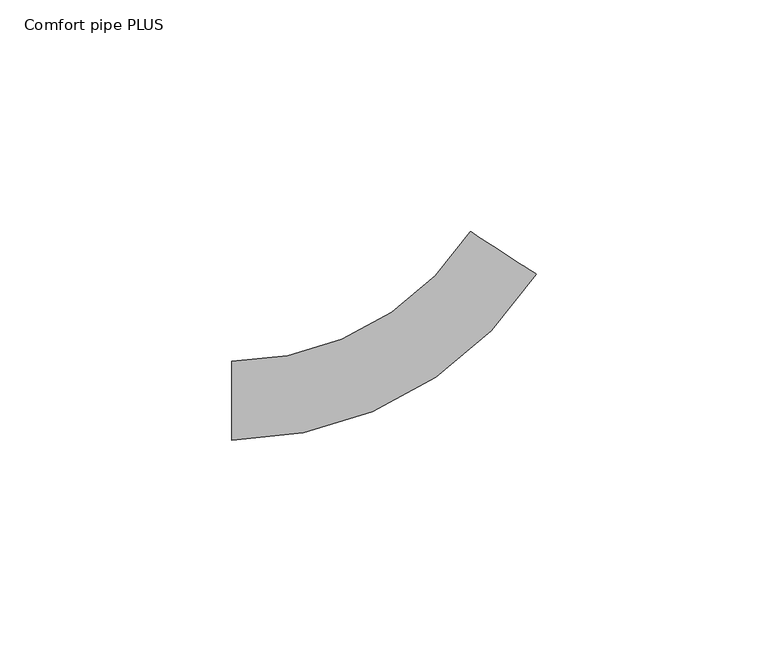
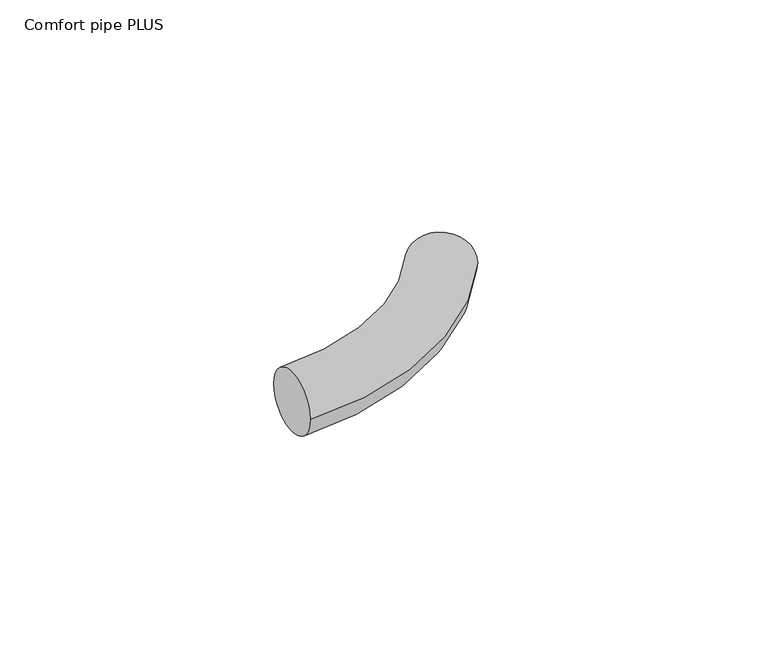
"""IFC4 building model written with IfcOpenShell, lengths in millimetres: pipe fitting geometry, 400_5-_Uponor_curved_Elbow : Comfort pipe PLUS."""

import ifcopenshell
import ifcopenshell.guid

model = None  # the IFC model being written
_history = None  # IfcOwnerHistory: only IFC2X3 demands one
_inside = {}  # id of a spatial element -> (the spatial element, [elements in it])
_under = {}  # id of a project, library or spatial element -> (it, [spatial elements below it])
_declared = {}  # id of a project -> (the project, [libraries it declares])
_typed = {}  # id of a type object -> (the type object, [elements of that type])
_made_of = {}  # id of a material, layer set ... -> (it, [elements and type objects made of it])


def new_model(schema):
    """Start an empty IFC model of exactly this schema.

    Asked for "IFC4X3", IfcOpenShell would pick the latest addendum, in which some entities
    have other attributes; the version numbers below select the first issue.
    IFC2X3 requires an IfcOwnerHistory on every rooted entity: one is made here for all.
    """
    global model, _history
    if schema == "IFC4X3":
        model = ifcopenshell.file(schema_version=(4, 3, 0, 0))
    else:
        model = ifcopenshell.file(schema=schema)
    _inside.clear()
    _under.clear()
    _declared.clear()
    _typed.clear()
    _made_of.clear()
    _history = None
    if model.schema == "IFC2X3":
        org = make("IfcOrganization", Name="unknown")
        user = make(
            "IfcPersonAndOrganization",
            ThePerson=make("IfcPerson", FamilyName="unknown"),
            TheOrganization=org,
        )
        app = make(
            "IfcApplication",
            ApplicationDeveloper=org,
            Version="unknown",
            ApplicationFullName="unknown",
            ApplicationIdentifier="unknown",
        )
        _history = make(
            "IfcOwnerHistory",
            OwningUser=user,
            OwningApplication=app,
            ChangeAction="ADDED",
            CreationDate=0,
        )
    return model


def make(cls, **values):
    """One entity of the class cls with the attributes given. An attribute that is None is left unset."""
    return model.create_entity(
        cls, **{name: value for name, value in values.items() if value is not None}
    )


def rooted(cls, **values):
    """An entity with a GlobalId (a new one), such as an element, a storey or a relation."""
    return make(cls, GlobalId=ifcopenshell.guid.new(), OwnerHistory=_history, **values)


def si_unit(unit_type, name, prefix=None):
    """IfcSIUnit, for example si_unit("LENGTHUNIT", "METRE", prefix="MILLI")."""
    return make("IfcSIUnit", UnitType=unit_type, Prefix=prefix, Name=name)


def assignment(units):
    """IfcUnitAssignment: the units of a project."""
    return None if units is None else make("IfcUnitAssignment", Units=units)


def point(xyz):
    """IfcCartesianPoint."""
    return None if xyz is None else make("IfcCartesianPoint", Coordinates=xyz)


def direction(xyz):
    """IfcDirection."""
    return None if xyz is None else make("IfcDirection", DirectionRatios=xyz)


def frame(location, z_axis=None, x_axis=None):
    """IfcAxis2Placement3D, a coordinate frame: its origin and axes. An axis left out is left unset."""
    return make(
        "IfcAxis2Placement3D",
        Location=point(location),
        Axis=direction(z_axis),
        RefDirection=direction(x_axis),
    )


def origin():
    """The frame at (0, 0, 0) with its axes left unset."""
    return frame((0.0, 0.0, 0.0))


def place(relative_to, where):
    """IfcLocalPlacement: puts the frame where relative to a parent placement (None: the world)."""
    return make(
        "IfcLocalPlacement", PlacementRelTo=relative_to, RelativePlacement=where
    )


def context(
    kind, dimensions, precision=None, world=None, true_north=None, identifier=None
):
    """IfcGeometricRepresentationContext, for example the 3D "Model" context."""
    return make(
        "IfcGeometricRepresentationContext",
        ContextIdentifier=identifier,
        ContextType=kind,
        CoordinateSpaceDimension=dimensions,
        Precision=precision,
        WorldCoordinateSystem=world,
        TrueNorth=true_north,
    )


def project(units=None, contexts=None):
    """IfcProject with its units and contexts."""
    return rooted(
        "IfcProject",
        Name="project",
        RepresentationContexts=contexts,
        UnitsInContext=assignment(units),
    )


def spatial(cls, under=None, at=None, **own):
    """A site, building, storey or space (cls), placed at a placement, below another one or the project."""
    s = rooted(cls, ObjectPlacement=at, **own)
    if under is not None:
        _under.setdefault(under.id(), (under, []))[1].append(s)
    return s


def circle_curve(where, radius):
    """IfcCircle in the frame where."""
    return make("IfcCircle", Position=where, Radius=radius)


def ellipse_curve(where, semi_axis1, semi_axis2):
    """IfcEllipse in the frame where."""
    return make(
        "IfcEllipse", Position=where, SemiAxis1=semi_axis1, SemiAxis2=semi_axis2
    )


def trimmed(basis, trim1, trim2, sense, master):
    """IfcTrimmedCurve: the piece of a basis curve between two trims."""
    return make(
        "IfcTrimmedCurve",
        BasisCurve=basis,
        Trim1=trim1,
        Trim2=trim2,
        SenseAgreement=sense,
        MasterRepresentation=master,
    )


def shape(context_of_items, identifier, shape_type, items):
    """IfcShapeRepresentation: the items that make up one representation, for example the "Body"."""
    return make(
        "IfcShapeRepresentation",
        ContextOfItems=context_of_items,
        RepresentationIdentifier=identifier,
        RepresentationType=shape_type,
        Items=items,
    )


def source(mapping_origin, context_of_items, identifier, shape_type, items):
    """IfcRepresentationMap: a shape defined once, which mapped items show again and again."""
    return make(
        "IfcRepresentationMap",
        MappingOrigin=mapping_origin,
        MappedRepresentation=shape(context_of_items, identifier, shape_type, items),
    )


def transform(
    local_origin,
    x_axis=None,
    y_axis=None,
    z_axis=None,
    scale=None,
    scale2=None,
    scale3=None,
    uniform=True,
):
    """IfcCartesianTransformationOperator3D, or its non-uniform kind. x_axis, y_axis, z_axis: its Axis1, 2, 3."""
    if uniform:
        return make(
            "IfcCartesianTransformationOperator3D",
            Axis1=direction(x_axis),
            Axis2=direction(y_axis),
            LocalOrigin=point(local_origin),
            Scale=scale,
            Axis3=direction(z_axis),
        )
    return make(
        "IfcCartesianTransformationOperator3DnonUniform",
        Axis1=direction(x_axis),
        Axis2=direction(y_axis),
        LocalOrigin=point(local_origin),
        Scale=scale,
        Axis3=direction(z_axis),
        Scale2=scale2,
        Scale3=scale3,
    )


def mapped(mapping_source, mapping_target):
    """IfcMappedItem: shows the shape of a source again, moved by a transform."""
    return make(
        "IfcMappedItem", MappingSource=mapping_source, MappingTarget=mapping_target
    )


def made_of(thing, what):
    """Note that an element or type object is made of a material, layer set ...; save() writes the relation."""
    if what is not None:
        _made_of.setdefault(what.id(), (what, []))[1].append(thing)
    return thing


def element(
    cls,
    number,
    at=None,
    inside=None,
    cuts=None,
    type_object=None,
    material=None,
    context=None,
    identifier="Body",
    shape_type=None,
    held_by="IfcProductDefinitionShape",
    body=None,
    shapes=None,
    **own,
):
    """One element of the class cls, such as IfcWall. Its Tag is "e" and its number.

    at: its placement. inside: the storey or other place that contains it. cuts: it is an
    opening in that element (IfcRelVoidsElement). A single representation is given by context,
    identifier, shape_type and body (its items); several are given by shapes. held_by: the class
    of the entity that holds the representations. save() writes the other relations.
    """
    e = rooted(cls, Tag="e%d" % number, ObjectPlacement=at, **own)
    if body is not None:
        shapes = [shape(context, identifier, shape_type, body)]
    if shapes is not None:
        e.Representation = make(held_by, Representations=shapes)
    if inside is not None:
        _inside.setdefault(inside.id(), (inside, []))[1].append(e)
    if cuts is not None:
        rooted(
            "IfcRelVoidsElement", RelatingBuildingElement=cuts, RelatedOpeningElement=e
        )
    if type_object is not None:
        _typed.setdefault(type_object.id(), (type_object, []))[1].append(e)
    return made_of(e, material)


def aggregate(whole, parts):
    """IfcRelAggregates: a whole, such as a stair, and the parts it consists of."""
    return rooted("IfcRelAggregates", RelatingObject=whole, RelatedObjects=parts)


def save(model, path):
    """Write the relations noted so far, then the file.

    IfcRelAggregates (storeys below a building ...), IfcRelContainedInSpatialStructure (elements
    in a storey), IfcRelDefinesByType, IfcRelAssociatesMaterial and IfcRelDeclares: one each for
    every whole, place, type object, material and project.
    """
    for whole, parts in _under.values():
        aggregate(whole, parts)
    for where, things in _inside.values():
        rooted(
            "IfcRelContainedInSpatialStructure",
            RelatedElements=things,
            RelatingStructure=where,
        )
    for kind, things in _typed.values():
        rooted("IfcRelDefinesByType", RelatedObjects=things, RelatingType=kind)
    for what, things in _made_of.values():
        rooted("IfcRelAssociatesMaterial", RelatedObjects=things, RelatingMaterial=what)
    for by, libraries in _declared.values():
        rooted("IfcRelDeclares", RelatingContext=by, RelatedDefinitions=libraries)
    model.write(path)


def plane_surface(at):
    """IfcPlane: the flat surface through the origin of the frame at, square to its z axis."""
    return make("IfcPlane", Position=at)


def revolved_surface(curve, axis_point, axis_direction):
    """IfcSurfaceOfRevolution: the curve turned about the line through axis_point along axis_direction."""
    return make(
        "IfcSurfaceOfRevolution",
        SweptCurve=make("IfcArbitraryOpenProfileDef", ProfileType="CURVE", Curve=curve),
        AxisPosition=make("IfcAxis1Placement", Location=point(axis_point), Axis=direction(axis_direction)),
    )


def advanced_brep(points, edges, surfaces, faces):
    """IfcAdvancedBrep: a solid bounded by faces that lie on surfaces and meet in shared edges.

    An edge is (start, end): straight between two places in points (the first is 0);
    or (start, end, curve); or (start, end, curve, False) where it runs against its curve.
    A face is (place in surfaces, loops), or (place, loops, False) where it looks against
    its surface's normal. A loop lists edges by number (the first is 1), with a minus sign
    where the edge is run from its end to its start. The first loop is the outer one.
    """
    corners = [point(p) for p in points]
    vertices = [make("IfcVertexPoint", VertexGeometry=c) for c in corners]
    made = []
    for start, end, *more in edges:
        made.append(
            make(
                "IfcEdgeCurve",
                EdgeStart=vertices[start],
                EdgeEnd=vertices[end],
                EdgeGeometry=more[0] if more else make("IfcPolyline", Points=[corners[start], corners[end]]),
                SameSense=more[1] if len(more) > 1 else True,
            )
        )
    hull = []
    for where, loops, *sense in faces:
        bounds = []
        for j, loop in enumerate(loops):
            ring = [make("IfcOrientedEdge", EdgeElement=made[abs(k) - 1], Orientation=k > 0) for k in loop]
            bounds.append(
                make(
                    "IfcFaceOuterBound" if j == 0 else "IfcFaceBound",
                    Bound=make("IfcEdgeLoop", EdgeList=ring),
                    Orientation=True,
                )
            )
        hull.append(make("IfcAdvancedFace", Bounds=bounds, FaceSurface=surfaces[where], SameSense=sense[0] if sense else True))
    return make("IfcAdvancedBrep", Outer=make("IfcClosedShell", CfsFaces=hull))


def comfort_pipe_plus_3bb60c39(model_context):
    return source(origin(), model_context, "Body", "AdvancedBrep", [
        advanced_brep(
        [(-38.0434106, -8.5, 0.0), (-38.0434106, 8.5, 0.0), (27.8266461, 27.2988802, 0.0), (13.561793, 36.5462565, 0.0)],
        [
            (0, 1, circle_curve(frame((-38.0434106, 0.0, 0.0), z_axis=(-1.0, 0.0, 0.0), x_axis=(0.0, 1.0, 0.0)), 8.5)),
            (1, 0, circle_curve(frame((-38.0434106, 0.0, 0.0), z_axis=(-1.0, 0.0, 0.0), x_axis=(0.0, 1.0, 0.0)), 8.5)),
            (2, 3, circle_curve(frame((20.6942195, 31.9225683, 0.0), z_axis=(0.5439633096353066, 0.8391090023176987, 0.0), x_axis=(-0.8391090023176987, 0.5439633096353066, 0.0)), 8.5)),
            (3, 2, circle_curve(frame((20.6942195, 31.9225683, 0.0), z_axis=(0.5439633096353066, 0.8391090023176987, 0.0), x_axis=(-0.8391090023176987, 0.5439633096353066, 0.0)), 8.5)),
            (3, 1, circle_curve(frame((-38.0434106, 70.0, 0.0), z_axis=(0.0, 0.0, -1.0), x_axis=(0.0, -1.0, 0.0)), 61.5)),
            (0, 2, circle_curve(frame((-38.0434106, 70.0, 0.0), z_axis=(0.0, 0.0, 1.0), x_axis=(0.0, -1.0, 0.0)), 78.5)),
        ],
        [
            plane_surface(frame((-38.0434106, 0.0, 0.0), z_axis=(-1.0, 0.0, 0.0), x_axis=(0.0, 0.0, 1.0))),
            plane_surface(frame((20.6942195, 31.9225683, 0.0), z_axis=(0.5439633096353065, 0.8391090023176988, 0.0), x_axis=(0.0, 0.0, 1.0))),
            revolved_surface(trimmed(ellipse_curve(frame((-38.0434106, 0.0, 0.0), z_axis=(-1.0, 0.0, 0.0), x_axis=(0.0, 1.0, 0.0)), 8.5, 8.5), [point((-38.0434106, -8.5, 0.0))], [point((-38.0434106, 8.5, 0.0))], True, "CARTESIAN"), (-38.0434106, 70.0, 0.0), (0.0, 0.0, 1.0)),
            revolved_surface(trimmed(ellipse_curve(frame((-38.0434106, 0.0, 0.0), z_axis=(-1.0, 0.0, 0.0), x_axis=(0.0, 1.0, 0.0)), 8.5, 8.5), [point((-38.0434106, 8.5, 0.0))], [point((-38.0434106, -8.5, 0.0))], True, "CARTESIAN"), (-38.0434106, 70.0, 0.0), (0.0, 0.0, 1.0)),
        ],
        [
            (0, [[1, 2]]),
            (1, [[3, 4]]),
            (2, [[5, -1, 6, -4]]),
            (3, [[-6, -2, -5, -3]]),
        ],
    ),
    ])


if __name__ == "__main__":
    model = new_model("IFC4")
    model_context = context("Model", 3, world=origin())
    ifc_project = project(units=[si_unit("LENGTHUNIT", "METRE", prefix="MILLI")], contexts=[model_context])
    site = spatial("IfcSite", under=ifc_project)
    building = spatial("IfcBuilding", under=site)
    placement = place(None, origin())
    comfort_pipe_plus_shape = comfort_pipe_plus_3bb60c39(model_context)
    element("IfcPipeFitting", 1, ObjectType="400_5-_Uponor_curved_Elbow : Comfort pipe PLUS", at=placement, inside=building, context=model_context, shape_type="MappedRepresentation", body=[
        mapped(comfort_pipe_plus_shape, transform((0.0, 0.0, 0.0), x_axis=(1.0, 0.0, 0.0), y_axis=(0.0, 1.0, 0.0), z_axis=(0.0, 0.0, 1.0))),
    ])
    save(model, "model.ifc")
